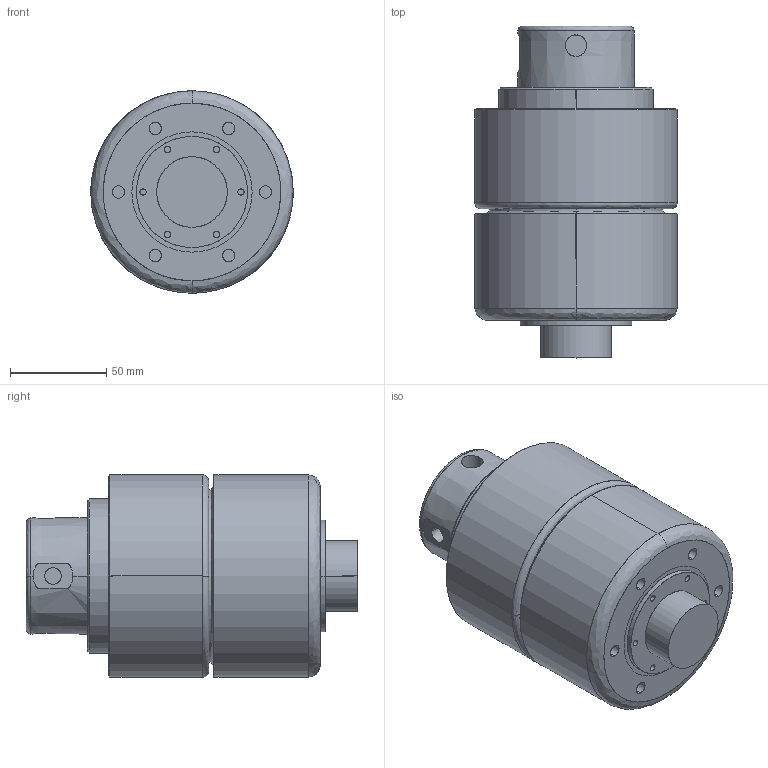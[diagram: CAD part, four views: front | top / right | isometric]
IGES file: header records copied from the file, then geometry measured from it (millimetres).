
Start section: SolidWorks IGES file using analytic representation for surfaces
Global section: file name: \\server\Users\Karen.Bodily\My Documents\defeatured\DBA030 TOP MOUNT.IGS; native system: SolidWorks 2012; preprocessor: SolidWorks 2012; author: karen.bodily; date: 130424.085824; units: inch
Bounding box: 105.08 x 172.11 x 105.08 mm (x, y, z)
Surface area: 73482.2 mm2 (no closed solid volume)
Topology: 0 solids, 0 shells, 177 faces, 4301 edges, 4301 vertices
Faces by surface type: revolution 105, bspline 72
